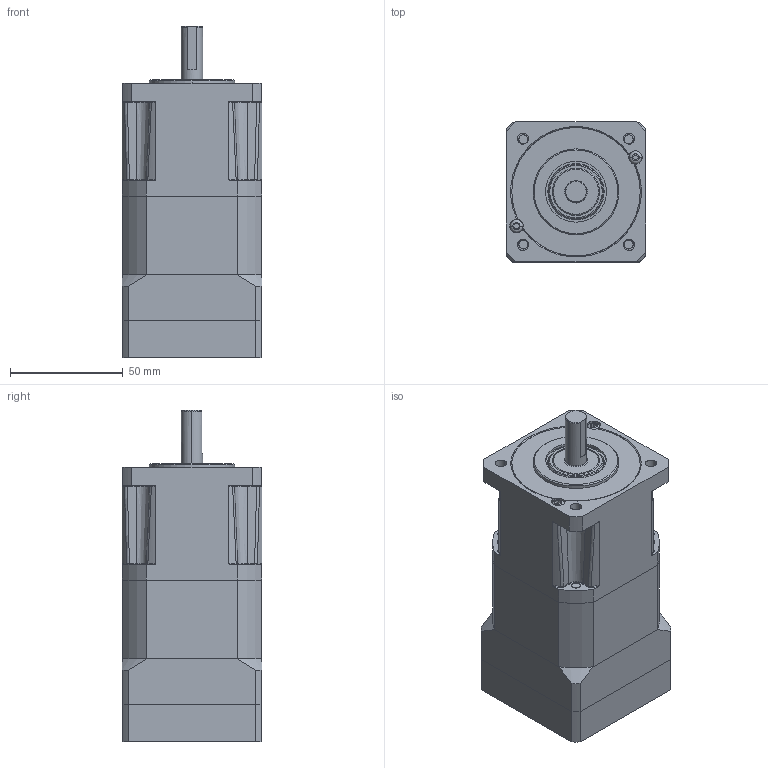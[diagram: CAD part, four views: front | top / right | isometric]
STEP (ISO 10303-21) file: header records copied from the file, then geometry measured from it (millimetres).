
FILE_DESCRIPTION((''),'2;1');
FILE_NAME('PX23-015-000-X2_SW0001','2008-11-20T',('aza7363'),(''),'PRO/ENGINEER BY PARAMETRIC TECHNOLOGY CORPORATION, 2006300','PRO/ENGINEER BY PARAMETRIC TECHNOLOGY CORPORATION, 2006300','');
FILE_SCHEMA(('CONFIG_CONTROL_DESIGN'));
Length unit declared in the file: millimetre
Products named in the file (1): PX23-015-000-X2_SW0001
Bounding box: 62 x 62 x 147.2 mm (x, y, z)
Surface area: 52484.1 mm2 (no closed solid volume)
Topology: 0 solids, 29 shells, 354 faces, 995 edges, 672 vertices
Faces by surface type: plane 150, cylinder 125, bspline 31, torus 26, cone 22
Entity records: 13010 total; most frequent: CARTESIAN_POINT 3928, DIRECTION 1928, ORIENTED_EDGE 1732, EDGE_CURVE 995, AXIS2_PLACEMENT_3D 737, VERTEX_POINT 672, VECTOR 454, LINE 454
